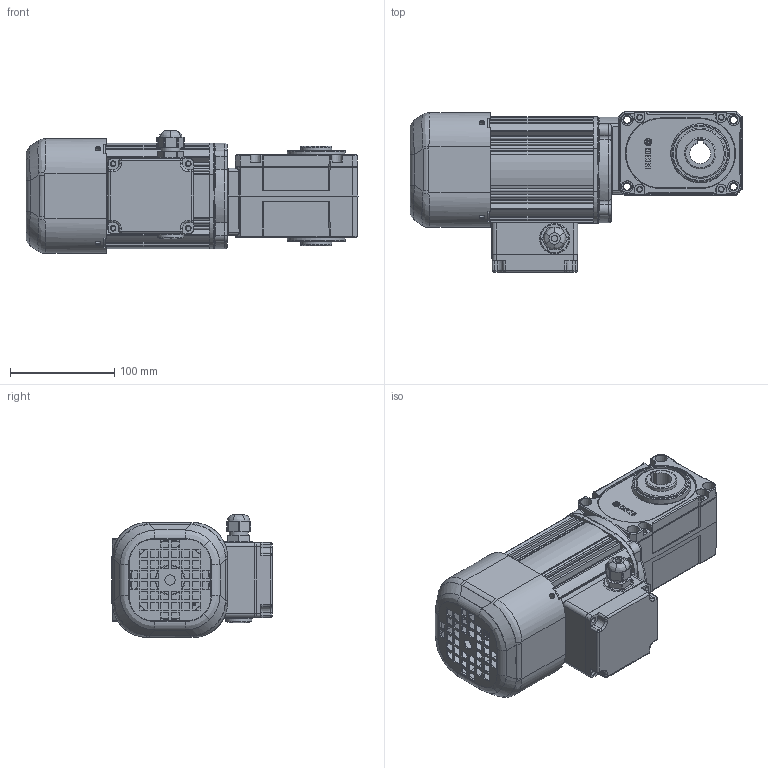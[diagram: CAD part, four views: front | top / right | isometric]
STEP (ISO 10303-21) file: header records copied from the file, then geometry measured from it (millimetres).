
FILE_DESCRIPTION (( 'STEP AP203' ), '1' );
FILE_NAME ('DSY20B-(7.5~30)B020-¤±.STEP', '2022-08-08T06:34:07', ( '' ), ( '' ), 'SwSTEP 2.0', 'SolidWorks 2018', '' );
FILE_SCHEMA (( 'CONFIG_CONTROL_DESIGN' ));
Length unit declared in the file: millimetre
Products named in the file (15): COVER-DSY02S-DC 寇屈荐沥; DSY20B-(7.5~30)B020-仃; 95 牢惯橇饭烙 弥辆啊傍档(20200128); 堅鼠ぬ韁-鼻; CASE-DSY02S-DC 寇屈荐沥; 堅鼠ぬ韁-ж; 欽濠夢蝶 ж 熱薑; DKM 窜磊措 惑何荐沥档(20200120); DKM 0.2kW 菴醴幗 陛奢紫(20200128); DSY02S 馬樓晦; 0.2kW 粽溯檜觼 の醴幗; 欽濠夢蝶 ASS''Y; Щ滓衛綰_ル遽; 欽濠夢蝶 葆偃; 0.2KW 粽溯檜觼 賅攪
Assembly tree (14 placements, depth 3):
  DSY20B-(7.5~30)B020-仃
    DSY02S 馬樓晦
      CASE-DSY02S-DC 寇屈荐沥
      COVER-DSY02S-DC 寇屈荐沥
    欽濠夢蝶 ASS''Y
      欽濠夢蝶 ж 熱薑
      Щ滓衛綰_ル遽
      欽濠夢蝶 葆偃
      堅鼠ぬ韁-鼻
      堅鼠ぬ韁-ж
      DKM 窜磊措 惑何荐沥档(20200120)
    0.2KW 粽溯檜觼 賅攪
      95 牢惯橇饭烙 弥辆啊傍档(20200128)
      DKM 0.2kW 菴醴幗 陛奢紫(20200128)
      0.2kW 粽溯檜觼 の醴幗
Bounding box: 318 x 154.05 x 117.66 mm (x, y, z)
Volume: 2098825.8 mm3; surface area: 346398.2 mm2
Topology: 11 solids, 17 shells, 1583 faces, 4074 edges, 2561 vertices
Faces by surface type: plane 737, cylinder 513, bspline 200, torus 81, cone 32, sphere 20
Full cylindrical faces by diameter (mm): 2.514 x2, 3.318 x2, 3.5 x4, 4.2 x8, 4.5 x4, 5 x12, 5.3 x12, 5.5 x4, 6 x1, 6.7 x4, 8 x8, 10 x1, 10.8 x1, 11 x4, 16.5 x1, 18 x2, 19 x1, 20 x2, 22 x1, 25 x1, 28 x1, 30 x3, 46.111 x1, 48 x2, 52 x2
Entity records: 56721 total; most frequent: CARTESIAN_POINT 17928, ORIENTED_EDGE 7776, DIRECTION 7415, EDGE_CURVE 3888, AXIS2_PLACEMENT_3D 2568, VERTEX_POINT 2536, VECTOR 2279, LINE 2279
